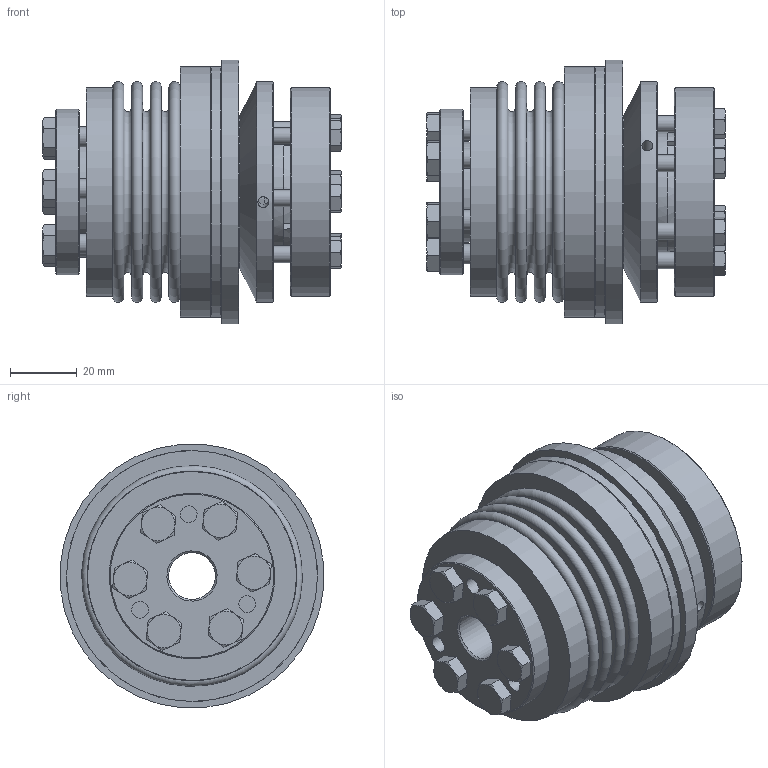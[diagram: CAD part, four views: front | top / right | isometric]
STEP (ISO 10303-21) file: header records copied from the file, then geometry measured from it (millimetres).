
FILE_DESCRIPTION( ( 'Unknown' ), '1' );
FILE_NAME( 'K:/Konstruktion/Korrigierte 3D Modelle/KBK-B-IA/KBK-BIA-60-89.stp', 'Unknown', ( 'Unknown' ), ( 'Unknown' ), 'PSStep 16.0.42', 'Unknown', ' ' );
FILE_SCHEMA( ( 'AUTOMOTIVE_DESIGN { 1 0 10303 214 1 1 1 1 }' ) );
Length unit declared in the file: millimetre
Products named in the file (18): Druckring 60_0; KBK L-A-60 Grundkörper_0; Stellring 60_0; din_en_24017_m5x20_0; Druckring L-A-60_0; BA5-60; BA60_Standard_2; Hex Screw GradeC_DIN_ISO 4018 - M6 x 20-NN_2; KB60_Standard_0; A-60; Assem1; BK60_Standard_0; Flansch BK60
Assembly tree (27 placements, depth 4):
  Assem1
    BK60_Standard_0
    Flansch BK60
    BA5-60
      BA60_Standard_2
      Hex Screw GradeC_DIN_ISO 4018 - M6 x 20-NN_2  x6
      KB60_Standard_0
    A-60
      Stellring 60_0
        Stellring 60_0
      Druckring 60_0
        Druckring 60_0
      KBK L-A-60 Grundkörper_0
        KBK L-A-60 Grundkörper_0
      din_en_24017_m5x20_0  x6
        din_en_24017_m5x20_0
      Druckring L-A-60_0
        Druckring L-A-60_0
Bounding box: 89.35 x 78.76 x 78.76 mm (x, y, z)
Volume: 205121.6 mm3; surface area: 110185.6 mm2
Topology: 20 solids, 20 shells, 400 faces, 830 edges, 525 vertices
Faces by surface type: plane 183, cone 116, cylinder 76, torus 25
Full cylindrical faces by diameter (mm): 3.242 x3, 4 x3, 4.134 x6, 5 x9, 5.5 x6, 6 x12, 6.6 x6, 6.88 x6, 14 x1, 15 x1, 30.2 x1, 33 x1, 35 x2, 35.937 x1, 42 x1, 46 x3, 46.5 x1, 47 x1, 49.5 x1, 56.3 x2, 57.3 x2, 61.3 x1, 62.5 x2, 66 x1, 75 x2, 79 x1
Entity records: 7368 total; most frequent: CARTESIAN_POINT 1238, DIRECTION 956, ORIENTED_EDGE 600, AXIS2_PLACEMENT_3D 454, EDGE_LOOP 406, EDGE_CURVE 300, FACE_OUTER_BOUND 286, VERTEX_POINT 260
